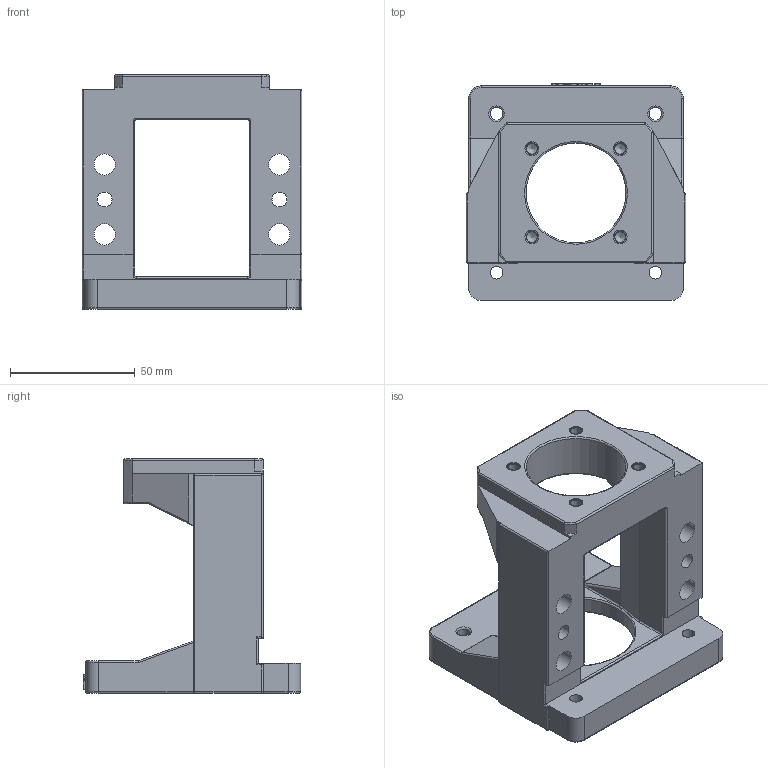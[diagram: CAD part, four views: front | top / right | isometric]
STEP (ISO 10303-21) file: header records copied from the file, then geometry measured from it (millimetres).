
FILE_DESCRIPTION(/* description */ (''),/* implementation_level */ '2;1');
FILE_NAME(/* name */ 'M80E-FK15-A.stp',/* time_stamp */ '2016-10-27T10:16:50+08:00',/* author */ (''),/* organization */ (''),/* preprocessor_version */ 'ST-DEVELOPER v15',/* originating_system */ 'SIEMENS PLM Software NX 8.5',/* authorisation */ '');
FILE_SCHEMA (('CONFIG_CONTROL_DESIGN'));
Length unit declared in the file: millimetre
Products named in the file (1): MBA15-E
Bounding box: 88 x 87 x 94 mm (x, y, z)
Volume: 178352.4 mm3; surface area: 46200.7 mm2
Topology: 1 solids, 1 shells, 308 faces, 771 edges, 473 vertices
Faces by surface type: plane 112, cylinder 97, extrusion 41, torus 34, cone 12, sphere 8, bspline 4
Full cylindrical faces by diameter (mm): 4.3 x4, 5.1 x4, 6 x2, 8 x2, 8.5 x4, 14 x4, 40 x1, 47 x1, 70 x1
Entity records: 9476 total; most frequent: CARTESIAN_POINT 2769, ORIENTED_EDGE 1386, DIRECTION 1200, EDGE_CURVE 693, VERTEX_POINT 458, AXIS2_PLACEMENT_3D 434, EDGE_LOOP 401, VECTOR 332
